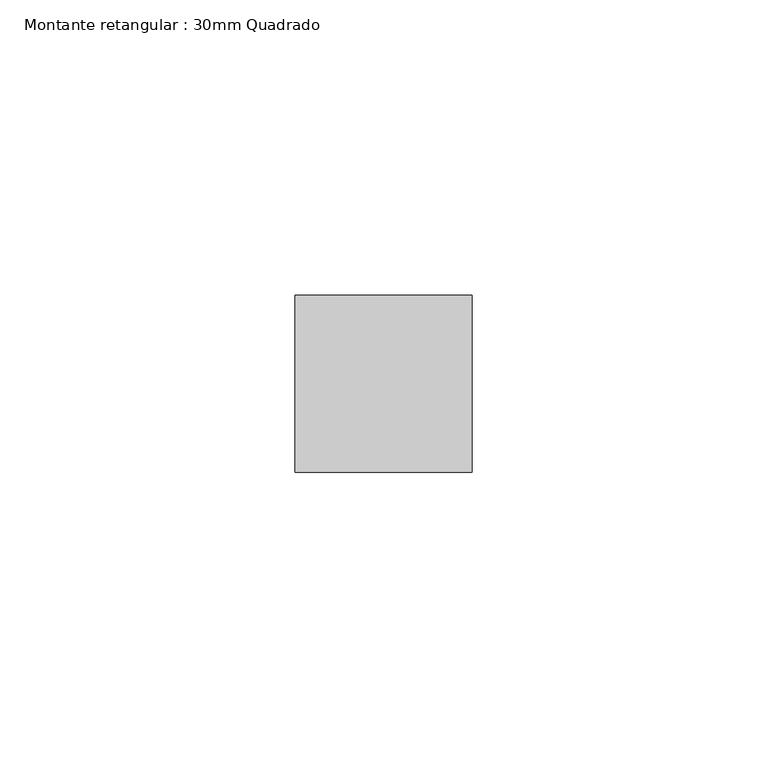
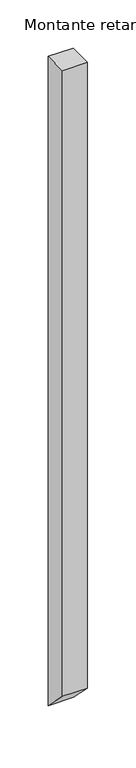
"""IFC4 building model written with IfcOpenShell, lengths in millimetres: member geometry, Montante retangular : 30mm Quadrado."""

from ifc_helpers import new_model, si_unit, frame, origin, place, context, project, spatial, polyline, outline, extrude, source, transform, mapped, element, save


def montante_retangular_30mm_quadrado_43d0b540(model_context):
    return source(origin(), model_context, "Body", "SweptSolid", [
        extrude(outline(polyline([(-15.0, 0.0), (15.0, 0.0), (15.0, -824.5767196), (-15.0, -794.5767196), (-15.0, 0.0)])), frame((-30.0, 0.0, 0.0), z_axis=(1.0, 0.0, 0.0), x_axis=(0.0, 1.0, 0.0)), (0.0, 0.0, 1.0), 30.0),
    ])


if __name__ == "__main__":
    model = new_model("IFC4")
    model_context = context("Model", 3, world=origin())
    ifc_project = project(units=[si_unit("LENGTHUNIT", "METRE", prefix="MILLI")], contexts=[model_context])
    site = spatial("IfcSite", under=ifc_project)
    building = spatial("IfcBuilding", under=site)
    placement = place(None, origin())
    montante_retangular_30mm_quadrado_shape = montante_retangular_30mm_quadrado_43d0b540(model_context)
    element("IfcMember", 1, ObjectType="Montante retangular : 30mm Quadrado", at=placement, inside=building, context=model_context, shape_type="MappedRepresentation", body=[
        mapped(montante_retangular_30mm_quadrado_shape, transform((0.0, 0.0, 0.0), x_axis=(1.0, 0.0, 0.0), y_axis=(0.0, 1.0, 0.0), z_axis=(0.0, 0.0, 1.0))),
    ])
    save(model, "model.ifc")
